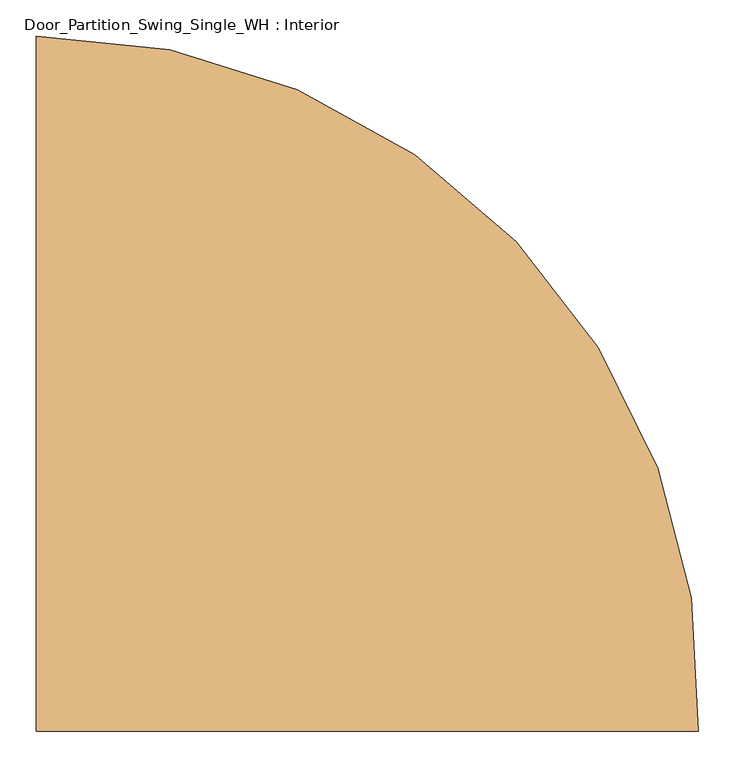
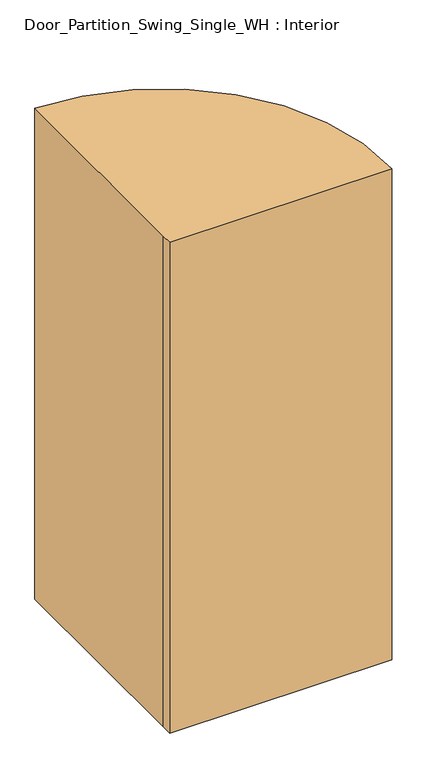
"""IFC4 building model written with IfcOpenShell, lengths in millimetres: door geometry, Door_Partition_Swing_Single_WH : Interior."""

from ifc_helpers import new_model, si_unit, point, frame_2d, origin, origin_with_axes, place, context, project, spatial, polyline, circle_curve, trimmed, segment, composite_curve, outline, extrude, source, transform, mapped, element, save


def door_partition_swing_single_wh_interior_e724bc5e(model_context):
    return source(origin(), model_context, "Body", "SweptSolid", [
        extrude(outline(composite_curve([segment(polyline([(-438.8346798, 57.15), (-438.8346798, 101.6), (-438.8346798, 1016.0)]), True, "CONTINUOUS"), segment(trimmed(circle_curve(frame_2d((-438.8346798, 101.6)), 914.4), [point((-438.8346798, 1016.0))], [point((474.4842992, 57.15))], False, "CARTESIAN"), True, "CONTINUOUS"), segment(polyline([(474.4842992, 57.15), (-438.8346798, 57.15)]), True, "CONTINUOUS")], self_intersect=False)), origin_with_axes(), (0.0, 0.0, 1.0), 2133.6),
    ])


if __name__ == "__main__":
    model = new_model("IFC4")
    model_context = context("Model", 3, world=origin())
    ifc_project = project(units=[si_unit("LENGTHUNIT", "METRE", prefix="MILLI")], contexts=[model_context])
    site = spatial("IfcSite", under=ifc_project)
    building = spatial("IfcBuilding", under=site)
    placement = place(None, origin())
    door_partition_swing_single_wh_interior_shape = door_partition_swing_single_wh_interior_e724bc5e(model_context)
    element("IfcDoor", 1, ObjectType="Door_Partition_Swing_Single_WH : Interior", at=placement, inside=building, context=model_context, shape_type="MappedRepresentation", body=[
        mapped(door_partition_swing_single_wh_interior_shape, transform((0.0, 0.0, 0.0), x_axis=(1.0, 0.0, 0.0), y_axis=(0.0, 1.0, 0.0), z_axis=(0.0, 0.0, 1.0))),
    ])
    save(model, "model.ifc")
